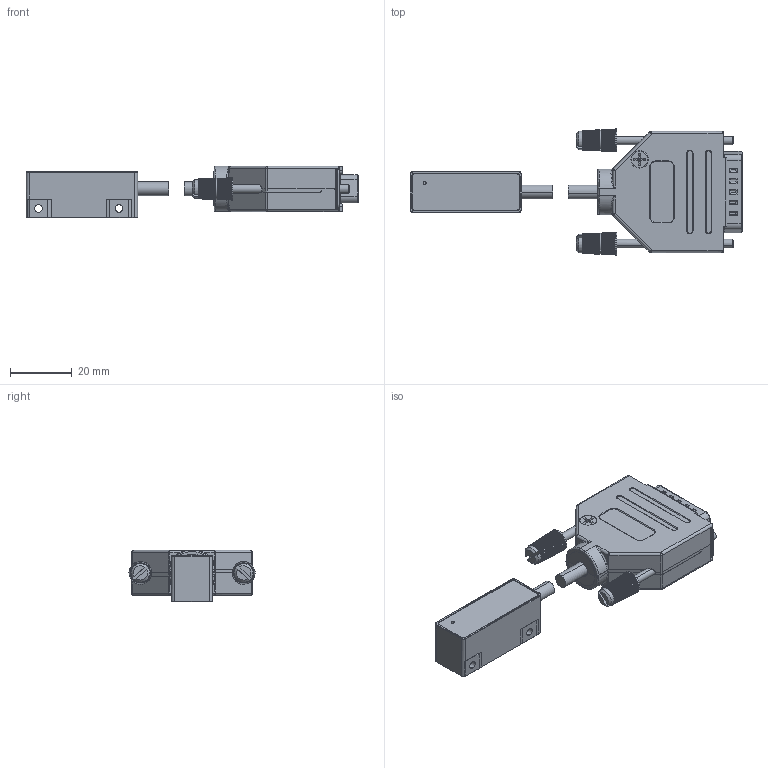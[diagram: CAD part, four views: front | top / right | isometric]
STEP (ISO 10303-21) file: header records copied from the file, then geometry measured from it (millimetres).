
FILE_DESCRIPTION (( 'STEP AP203' ), '1' );
FILE_NAME ('Assy ABI801.STEP', '2024-09-02T03:22:59', ( '' ), ( '' ), 'SwSTEP 2.0', 'SolidWorks 2020', '' );
FILE_SCHEMA (( 'CONFIG_CONTROL_DESIGN' ));
Length unit declared in the file: millimetre
Products named in the file (3): Assy ABI801; Dsub15 with Cover; ABI801 Readhead
Assembly tree (2 placements, depth 2):
  Assy ABI801
    ABI801 Readhead
    Dsub15 with Cover
Bounding box: 107.1 x 40.69 x 16.6 mm (x, y, z)
Volume: 13319.5 mm3; surface area: 22599.7 mm2
Topology: 32 solids, 32 shells, 3204 faces, 8468 edges, 5426 vertices
Faces by surface type: plane 1769, cylinder 943, cone 282, torus 122, bspline 80, sphere 8
Entity records: 112048 total; most frequent: CARTESIAN_POINT 35351, ORIENTED_EDGE 16928, DIRECTION 14715, EDGE_CURVE 8464, VERTEX_POINT 5426, AXIS2_PLACEMENT_3D 4952, VECTOR 4811, LINE 4811
